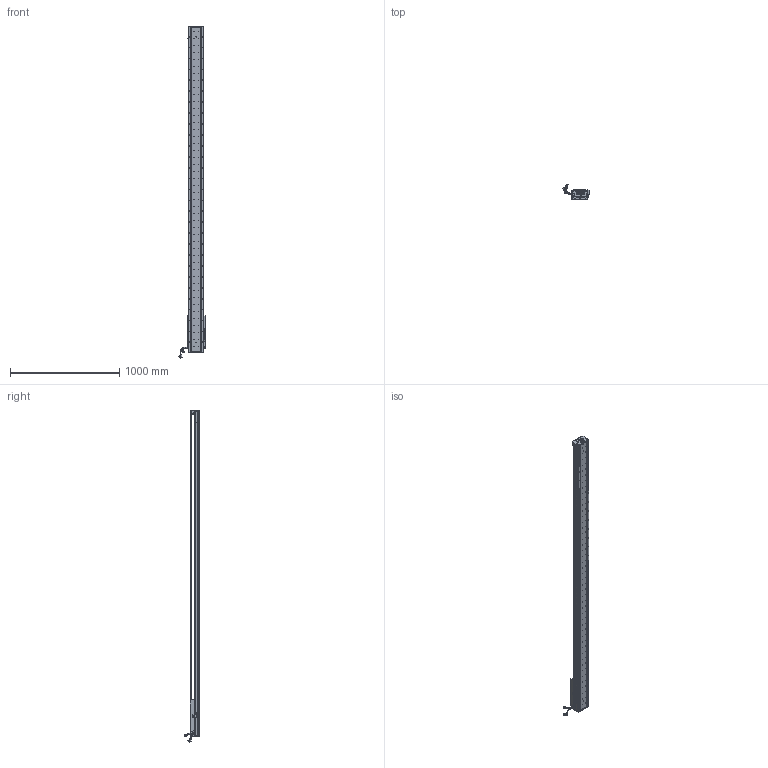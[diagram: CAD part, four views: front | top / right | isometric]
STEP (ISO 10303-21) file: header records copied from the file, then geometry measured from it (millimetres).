
FILE_DESCRIPTION (( 'STEP AP203' ), '1' );
FILE_NAME ('Z4-RY140D-1-L500-B-K.SLDASM_2600.step', '2021-05-17T08:20:32', ( '盈信电脑' ), ( '东莞市道滘镇水果街19号' ), 'SwSTEP 2.0', 'SolidWorks 2016', '' );
FILE_SCHEMA (( 'CONFIG_CONTROL_DESIGN' ));
Length unit declared in the file: millimetre
Products named in the file (36): LABEL-Part-1; 覜茼ん672; COVER; SCREW-M1.7; SCREW-M1.7-1; 詩湍狟揤裔; 080黍杅芛假蚾釱21遴; HARNESS-Part-2; SCALE-Part-2; Z4-RY140D-1-L500-B-K.SLDASM_2600; SCALE-Part-1; SCALE; SEAL; Z-RY140感应器672光电感应片; SCREW-M1.6; LABEL; HARNESS; HARNESS-Part-1; 榋妏寠巭燃_暯_M2_2; Z4-RY140圉猾敕臏賑輸(21遴); 140蚥薯蝶輸; Z4-RY140-L500直线电机模组底座_2600; SCREW-M1.6-1; HOLDER0; PBU_SHEET; PSLH080_PSLF2; 140雄赽晤鎢ん堤盄; 140-Z-臏賑輸盄裔(21遴); Z4-RY140-L500詩湍100mm遵_2600; COVER-Part-1; Z-140詩湍傷裔啣; SCREW-M1.6-2; SCREW-M1.6-3; SEAL-Part-1; 詩湍奻揤裔; SHIELDPLATE
Assembly tree (41 placements, depth 4):
  Z4-RY140D-1-L500-B-K.SLDASM_2600
    Z4-RY140-L500直线电机模组底座_2600
    Z-RY140感应器672光电感应片
    Z4-RY140圉猾敕臏賑輸(21遴)
    覜茼ん672  x3
    Z4-RY140-L500詩湍100mm遵_2600
    PSLH080_PSLF2
      SCALE
        SCALE-Part-1
        SCALE-Part-2
      HARNESS
        HARNESS-Part-1
        HARNESS-Part-2
      LABEL
        LABEL-Part-1
      COVER
        COVER-Part-1
      SEAL
        SEAL-Part-1
      榋妏寠巭燃_暯_M2_2
      SHIELDPLATE
      SCREW-M1.7
      SCREW-M1.7-1
      PBU_SHEET
      SCREW-M1.6
      SCREW-M1.6-1
      SCREW-M1.6-2
      SCREW-M1.6-3
      HOLDER0
    080黍杅芛假蚾釱21遴
    140-Z-臏賑輸盄裔(21遴)
    Z-140詩湍傷裔啣  x2
    詩湍狟揤裔  x2
    詩湍奻揤裔  x2
    140蚥薯蝶輸  x2
    140雄赽晤鎢ん堤盄
Bounding box: 239.79 x 143.88 x 3040.87 mm (x, y, z)
Volume: 9808656.1 mm3; surface area: 2535874.4 mm2
Topology: 36 solids, 36 shells, 4370 faces, 11932 edges, 7555 vertices
Faces by surface type: cylinder 2406, plane 1412, cone 430, torus 69, bspline 53
Entity records: 139980 total; most frequent: CARTESIAN_POINT 39965, ORIENTED_EDGE 20728, DIRECTION 19072, EDGE_CURVE 10364, AXIS2_PLACEMENT_3D 7110, VERTEX_POINT 6723, LINE 4852, VECTOR 4852
